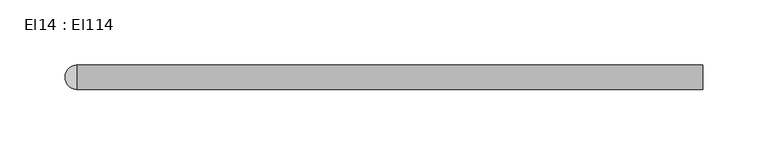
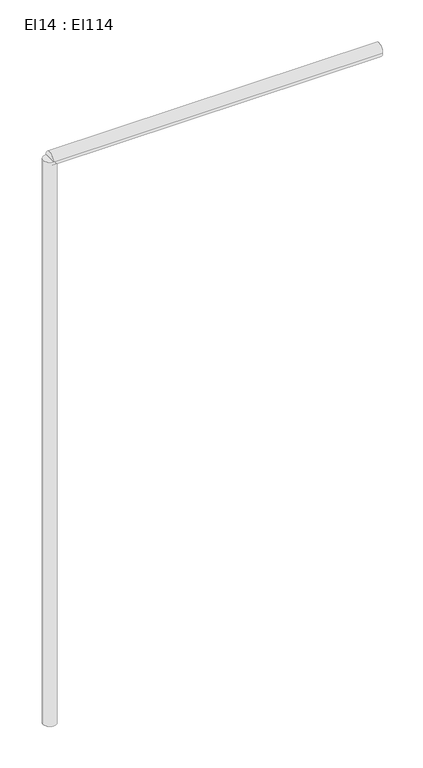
"""IFC4 building model written with IfcOpenShell, lengths in millimetres: cable carrier segment geometry, El14 : El114."""

import ifcopenshell
import ifcopenshell.guid

model = None  # the IFC model being written
_history = None  # IfcOwnerHistory: only IFC2X3 demands one
_inside = {}  # id of a spatial element -> (the spatial element, [elements in it])
_under = {}  # id of a project, library or spatial element -> (it, [spatial elements below it])
_declared = {}  # id of a project -> (the project, [libraries it declares])
_typed = {}  # id of a type object -> (the type object, [elements of that type])
_made_of = {}  # id of a material, layer set ... -> (it, [elements and type objects made of it])


def new_model(schema):
    """Start an empty IFC model of exactly this schema.

    Asked for "IFC4X3", IfcOpenShell would pick the latest addendum, in which some entities
    have other attributes; the version numbers below select the first issue.
    IFC2X3 requires an IfcOwnerHistory on every rooted entity: one is made here for all.
    """
    global model, _history
    if schema == "IFC4X3":
        model = ifcopenshell.file(schema_version=(4, 3, 0, 0))
    else:
        model = ifcopenshell.file(schema=schema)
    _inside.clear()
    _under.clear()
    _declared.clear()
    _typed.clear()
    _made_of.clear()
    _history = None
    if model.schema == "IFC2X3":
        org = make("IfcOrganization", Name="unknown")
        user = make(
            "IfcPersonAndOrganization",
            ThePerson=make("IfcPerson", FamilyName="unknown"),
            TheOrganization=org,
        )
        app = make(
            "IfcApplication",
            ApplicationDeveloper=org,
            Version="unknown",
            ApplicationFullName="unknown",
            ApplicationIdentifier="unknown",
        )
        _history = make(
            "IfcOwnerHistory",
            OwningUser=user,
            OwningApplication=app,
            ChangeAction="ADDED",
            CreationDate=0,
        )
    return model


def make(cls, **values):
    """One entity of the class cls with the attributes given. An attribute that is None is left unset."""
    return model.create_entity(
        cls, **{name: value for name, value in values.items() if value is not None}
    )


def rooted(cls, **values):
    """An entity with a GlobalId (a new one), such as an element, a storey or a relation."""
    return make(cls, GlobalId=ifcopenshell.guid.new(), OwnerHistory=_history, **values)


def si_unit(unit_type, name, prefix=None):
    """IfcSIUnit, for example si_unit("LENGTHUNIT", "METRE", prefix="MILLI")."""
    return make("IfcSIUnit", UnitType=unit_type, Prefix=prefix, Name=name)


def assignment(units):
    """IfcUnitAssignment: the units of a project."""
    return None if units is None else make("IfcUnitAssignment", Units=units)


def point(xyz):
    """IfcCartesianPoint."""
    return None if xyz is None else make("IfcCartesianPoint", Coordinates=xyz)


def direction(xyz):
    """IfcDirection."""
    return None if xyz is None else make("IfcDirection", DirectionRatios=xyz)


def frame(location, z_axis=None, x_axis=None):
    """IfcAxis2Placement3D, a coordinate frame: its origin and axes. An axis left out is left unset."""
    return make(
        "IfcAxis2Placement3D",
        Location=point(location),
        Axis=direction(z_axis),
        RefDirection=direction(x_axis),
    )


def frame_2d(location, x_axis=None):
    """IfcAxis2Placement2D, a coordinate frame in the plane: its origin and x axis."""
    return make(
        "IfcAxis2Placement2D", Location=point(location), RefDirection=direction(x_axis)
    )


def origin():
    """The frame at (0, 0, 0) with its axes left unset."""
    return frame((0.0, 0.0, 0.0))


def place(relative_to, where):
    """IfcLocalPlacement: puts the frame where relative to a parent placement (None: the world)."""
    return make(
        "IfcLocalPlacement", PlacementRelTo=relative_to, RelativePlacement=where
    )


def context(
    kind, dimensions, precision=None, world=None, true_north=None, identifier=None
):
    """IfcGeometricRepresentationContext, for example the 3D "Model" context."""
    return make(
        "IfcGeometricRepresentationContext",
        ContextIdentifier=identifier,
        ContextType=kind,
        CoordinateSpaceDimension=dimensions,
        Precision=precision,
        WorldCoordinateSystem=world,
        TrueNorth=true_north,
    )


def project(units=None, contexts=None):
    """IfcProject with its units and contexts."""
    return rooted(
        "IfcProject",
        Name="project",
        RepresentationContexts=contexts,
        UnitsInContext=assignment(units),
    )


def spatial(cls, under=None, at=None, **own):
    """A site, building, storey or space (cls), placed at a placement, below another one or the project."""
    s = rooted(cls, ObjectPlacement=at, **own)
    if under is not None:
        _under.setdefault(under.id(), (under, []))[1].append(s)
    return s


def circle_curve(where, radius):
    """IfcCircle in the frame where."""
    return make("IfcCircle", Position=where, Radius=radius)


def trimmed(basis, trim1, trim2, sense, master):
    """IfcTrimmedCurve: the piece of a basis curve between two trims."""
    return make(
        "IfcTrimmedCurve",
        BasisCurve=basis,
        Trim1=trim1,
        Trim2=trim2,
        SenseAgreement=sense,
        MasterRepresentation=master,
    )


def segment(curve, same_sense, transition):
    """IfcCompositeCurveSegment."""
    return make(
        "IfcCompositeCurveSegment",
        Transition=transition,
        SameSense=same_sense,
        ParentCurve=curve,
    )


def composite_curve(segments, self_intersect=None):
    """IfcCompositeCurve: segments joined end to end."""
    return make("IfcCompositeCurve", Segments=segments, SelfIntersect=self_intersect)


def outline(outer, holes=None, kind="AREA"):
    """IfcArbitraryClosedProfileDef: a profile drawn as a closed curve; with holes, ...WithVoids."""
    if holes is None:
        return make("IfcArbitraryClosedProfileDef", ProfileType=kind, OuterCurve=outer)
    return make(
        "IfcArbitraryProfileDefWithVoids",
        ProfileType=kind,
        OuterCurve=outer,
        InnerCurves=holes,
    )


def extrude(swept, where, along, depth):
    """IfcExtrudedAreaSolid: the profile swept, set in the frame where, extruded along a direction by depth."""
    return make(
        "IfcExtrudedAreaSolid",
        SweptArea=swept,
        Position=where,
        ExtrudedDirection=direction(along),
        Depth=depth,
    )


def shape(context_of_items, identifier, shape_type, items):
    """IfcShapeRepresentation: the items that make up one representation, for example the "Body"."""
    return make(
        "IfcShapeRepresentation",
        ContextOfItems=context_of_items,
        RepresentationIdentifier=identifier,
        RepresentationType=shape_type,
        Items=items,
    )


def source(mapping_origin, context_of_items, identifier, shape_type, items):
    """IfcRepresentationMap: a shape defined once, which mapped items show again and again."""
    return make(
        "IfcRepresentationMap",
        MappingOrigin=mapping_origin,
        MappedRepresentation=shape(context_of_items, identifier, shape_type, items),
    )


def transform(
    local_origin,
    x_axis=None,
    y_axis=None,
    z_axis=None,
    scale=None,
    scale2=None,
    scale3=None,
    uniform=True,
):
    """IfcCartesianTransformationOperator3D, or its non-uniform kind. x_axis, y_axis, z_axis: its Axis1, 2, 3."""
    if uniform:
        return make(
            "IfcCartesianTransformationOperator3D",
            Axis1=direction(x_axis),
            Axis2=direction(y_axis),
            LocalOrigin=point(local_origin),
            Scale=scale,
            Axis3=direction(z_axis),
        )
    return make(
        "IfcCartesianTransformationOperator3DnonUniform",
        Axis1=direction(x_axis),
        Axis2=direction(y_axis),
        LocalOrigin=point(local_origin),
        Scale=scale,
        Axis3=direction(z_axis),
        Scale2=scale2,
        Scale3=scale3,
    )


def mapped(mapping_source, mapping_target):
    """IfcMappedItem: shows the shape of a source again, moved by a transform."""
    return make(
        "IfcMappedItem", MappingSource=mapping_source, MappingTarget=mapping_target
    )


def made_of(thing, what):
    """Note that an element or type object is made of a material, layer set ...; save() writes the relation."""
    if what is not None:
        _made_of.setdefault(what.id(), (what, []))[1].append(thing)
    return thing


def element(
    cls,
    number,
    at=None,
    inside=None,
    cuts=None,
    type_object=None,
    material=None,
    context=None,
    identifier="Body",
    shape_type=None,
    held_by="IfcProductDefinitionShape",
    body=None,
    shapes=None,
    **own,
):
    """One element of the class cls, such as IfcWall. Its Tag is "e" and its number.

    at: its placement. inside: the storey or other place that contains it. cuts: it is an
    opening in that element (IfcRelVoidsElement). A single representation is given by context,
    identifier, shape_type and body (its items); several are given by shapes. held_by: the class
    of the entity that holds the representations. save() writes the other relations.
    """
    e = rooted(cls, Tag="e%d" % number, ObjectPlacement=at, **own)
    if body is not None:
        shapes = [shape(context, identifier, shape_type, body)]
    if shapes is not None:
        e.Representation = make(held_by, Representations=shapes)
    if inside is not None:
        _inside.setdefault(inside.id(), (inside, []))[1].append(e)
    if cuts is not None:
        rooted(
            "IfcRelVoidsElement", RelatingBuildingElement=cuts, RelatedOpeningElement=e
        )
    if type_object is not None:
        _typed.setdefault(type_object.id(), (type_object, []))[1].append(e)
    return made_of(e, material)


def aggregate(whole, parts):
    """IfcRelAggregates: a whole, such as a stair, and the parts it consists of."""
    return rooted("IfcRelAggregates", RelatingObject=whole, RelatedObjects=parts)


def save(model, path):
    """Write the relations noted so far, then the file.

    IfcRelAggregates (storeys below a building ...), IfcRelContainedInSpatialStructure (elements
    in a storey), IfcRelDefinesByType, IfcRelAssociatesMaterial and IfcRelDeclares: one each for
    every whole, place, type object, material and project.
    """
    for whole, parts in _under.values():
        aggregate(whole, parts)
    for where, things in _inside.values():
        rooted(
            "IfcRelContainedInSpatialStructure",
            RelatedElements=things,
            RelatingStructure=where,
        )
    for kind, things in _typed.values():
        rooted("IfcRelDefinesByType", RelatedObjects=things, RelatingType=kind)
    for what, things in _made_of.values():
        rooted("IfcRelAssociatesMaterial", RelatedObjects=things, RelatingMaterial=what)
    for by, libraries in _declared.values():
        rooted("IfcRelDeclares", RelatingContext=by, RelatedDefinitions=libraries)
    model.write(path)


def el14_el114_702ad4f7(model_context):
    return source(origin(), model_context, "Body", "SweptSolid", [
        extrude(outline(composite_curve([segment(trimmed(circle_curve(frame_2d((28743.1726511, 6766.0121745)), 9.5), [point((28733.6726511, 6766.0121745))], [point((28752.6726511, 6766.0121745))], False, "CARTESIAN"), True, "CONTINUOUS"), segment(trimmed(circle_curve(frame_2d((28743.1726511, 6766.0121745)), 9.5), [point((28752.6726511, 6766.0121745))], [point((28733.6726511, 6766.0121745))], False, "CARTESIAN"), True, "CONTINUOUS")], self_intersect=False)), frame((0.0, 0.0, 1830.0), z_axis=(0.0, 0.0, 1.0), x_axis=(1.0, 0.0, 0.0)), (0.0, 0.0, 1.0), 870.0),
        extrude(outline(composite_curve([segment(trimmed(circle_curve(frame_2d((6766.0121745, 2700.0)), 9.5), [point((6756.5121745, 2700.0))], [point((6775.5121745, 2700.0))], False, "CARTESIAN"), True, "CONTINUOUS"), segment(trimmed(circle_curve(frame_2d((6766.0121745, 2700.0)), 9.5), [point((6775.5121745, 2700.0))], [point((6756.5121745, 2700.0))], False, "CARTESIAN"), True, "CONTINUOUS")], self_intersect=False)), frame((28743.1726511, 0.0, 0.0), z_axis=(1.0, 0.0, 0.0), x_axis=(0.0, 1.0, 0.0)), (0.0, 0.0, 1.0), 480.504),
    ])


if __name__ == "__main__":
    model = new_model("IFC4")
    model_context = context("Model", 3, world=origin())
    ifc_project = project(units=[si_unit("LENGTHUNIT", "METRE", prefix="MILLI")], contexts=[model_context])
    site = spatial("IfcSite", under=ifc_project)
    building = spatial("IfcBuilding", under=site)
    placement = place(None, origin())
    el14_el114_shape = el14_el114_702ad4f7(model_context)
    element("IfcCableCarrierSegment", 1, ObjectType="El14 : El114", at=placement, inside=building, context=model_context, shape_type="MappedRepresentation", body=[
        mapped(el14_el114_shape, transform((0.0, 0.0, 0.0), x_axis=(1.0, 0.0, 0.0), y_axis=(0.0, 1.0, 0.0), z_axis=(0.0, 0.0, 1.0))),
    ])
    save(model, "model.ifc")
